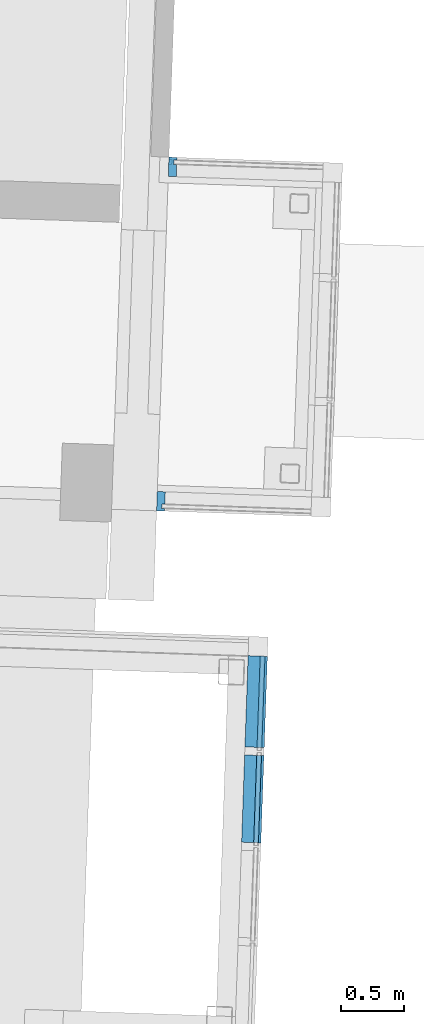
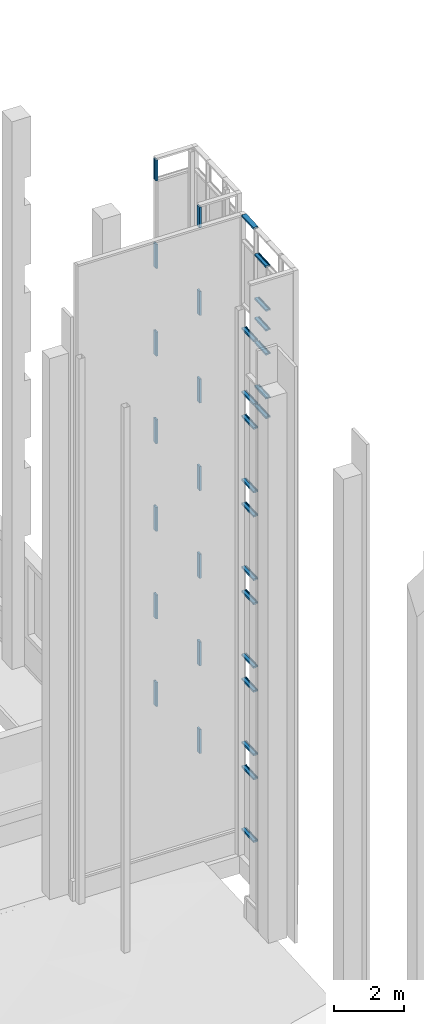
# One storey, part 17 of 44: 33 members, 3 elements without a shape of their own.
"""IFC2X3 building model written with IfcOpenShell, lengths in feet."""

from ifc_helpers import new_model, entity, si_unit, converted_unit, derived_unit, direction, frame, origin, place, context, subcontext, project, spatial, polyline, outline, extrude, material, type_object, element, aggregate, save


model = new_model("IFC2X3")

# Units and contexts
model_context = context("Model", 3, precision=0.0001, world=origin(), true_north=direction((0.999390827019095, 0.0348994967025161)))
body_context = subcontext(model_context, "Body", "Model", "MODEL_VIEW")
ifc_project = project(units=[converted_unit("LENGTHUNIT", "FOOT", entity("IfcRatioMeasure", 0.3048), si_unit("LENGTHUNIT", "METRE"), dimensions=[1, 0, 0, 0, 0, 0, 0]), converted_unit("AREAUNIT", "SQUARE FOOT", entity("IfcRatioMeasure", 0.09290304), si_unit("AREAUNIT", "SQUARE_METRE"), dimensions=[2, 0, 0, 0, 0, 0, 0]), converted_unit("VOLUMEUNIT", "CUBIC FOOT", entity("IfcRatioMeasure", 0.028316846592), si_unit("VOLUMEUNIT", "CUBIC_METRE"), dimensions=[3, 0, 0, 0, 0, 0, 0]), converted_unit("PLANEANGLEUNIT", "DEGREE", entity("IfcRatioMeasure", 0.0174532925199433), si_unit("PLANEANGLEUNIT", "RADIAN"), dimensions=[0, 0, 0, 0, 0, 0, 0]), si_unit("MASSUNIT", "GRAM", prefix="KILO"), si_unit("TIMEUNIT", "SECOND"), si_unit("FREQUENCYUNIT", "HERTZ"), si_unit("THERMODYNAMICTEMPERATUREUNIT", "DEGREE_CELSIUS"), derived_unit("THERMALTRANSMITTANCEUNIT", [(si_unit("MASSUNIT", "GRAM", prefix="KILO"), 1), (si_unit("THERMODYNAMICTEMPERATUREUNIT", "KELVIN"), -1), (si_unit("TIMEUNIT", "SECOND"), -3)]), derived_unit("VOLUMETRICFLOWRATEUNIT", [(si_unit("LENGTHUNIT", "METRE"), 3), (si_unit("TIMEUNIT", "SECOND"), -1)]), si_unit("ELECTRICCURRENTUNIT", "AMPERE"), si_unit("ELECTRICVOLTAGEUNIT", "VOLT"), si_unit("POWERUNIT", "WATT"), si_unit("FORCEUNIT", "NEWTON"), si_unit("ILLUMINANCEUNIT", "LUX"), si_unit("LUMINOUSFLUXUNIT", "LUMEN"), si_unit("LUMINOUSINTENSITYUNIT", "CANDELA"), derived_unit("USERDEFINED", [(si_unit("MASSUNIT", "GRAM", prefix="KILO"), -1), (si_unit("LENGTHUNIT", "METRE"), -2), (si_unit("TIMEUNIT", "SECOND"), 3), (si_unit("LUMINOUSFLUXUNIT", "LUMEN"), 1)]), derived_unit("LINEARVELOCITYUNIT", [(si_unit("LENGTHUNIT", "METRE"), 1), (si_unit("TIMEUNIT", "SECOND"), -1)]), si_unit("PRESSUREUNIT", "PASCAL"), derived_unit("USERDEFINED", [(si_unit("LENGTHUNIT", "METRE"), -2), (si_unit("MASSUNIT", "GRAM", prefix="KILO"), 1), (si_unit("TIMEUNIT", "SECOND"), -2)])], contexts=[model_context])

# Site, building, storey
site_placement = place(None, frame((892.518771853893, 322.38689265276, 0.00393700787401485), z_axis=(0.0, 0.0, 1.0), x_axis=(0.0348994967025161, 0.999390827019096, 0.0)))
site = spatial("IfcSite", under=ifc_project, at=site_placement, Name="Default", CompositionType="ELEMENT")
building_placement = place(site_placement, origin())
building = spatial("IfcBuilding", under=site, at=building_placement, CompositionType="ELEMENT")
storey_placement = place(building_placement, frame((0.0, 0.0, 544.75)))
storey = spatial("IfcBuildingStorey", under=building, at=storey_placement, Name="Exist Garage - Ground Level", CompositionType="ELEMENT", Elevation=544.75)

# Curtain wall, members
curtain_wall_type = type_object("IfcCurtainWallType", Name="Curtain Wall:(Existing) Curtainwall - Blank", PredefinedType="NOTDEFINED")
curtain_wall_1_placement = place(storey_placement, frame((0.0, 0.0, -544.75)))
curtain_wall_1 = element("IfcCurtainWall", 1, at=curtain_wall_1_placement, inside=storey, type_object=curtain_wall_type, Name="Curtain Wall:(Existing) Curtainwall - Blank", ObjectType="Curtain Wall:(Existing) Curtainwall - Blank")
ifc_material = material(Name="Metal - Aluminum")
member_1_placement = place(curtain_wall_1_placement, frame((0.0, 0.0, 544.75)))
member_1 = element("IfcMember", 2, at=member_1_placement, material=ifc_material, Name="Curtain Wall:(Existing) Curtainwall - Blank", ObjectType="Curtain Wall:(Existing) Curtainwall - Blank", context=body_context, shape_type="SweptSolid", body=[
    extrude(outline(polyline([(-0.0716145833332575, -0.312499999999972), (0.136718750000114, -0.312499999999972), (0.136718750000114, 0.187500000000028), (-0.0716145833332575, 0.187500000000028), (-0.0716145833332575, 0.125000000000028), (0.00651041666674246, 0.125000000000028), (0.00651041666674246, 0.0), (-0.0716145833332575, 0.0), (-0.0716145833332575, -0.312499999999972)])), frame((101.593963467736, 232.451453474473, 2.38671875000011), z_axis=(-1.0, 0.0, 0.0), x_axis=(0.0, 0.0, -1.0)), (0.0, 0.0, 1.0), 2.36458333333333),
])
member_2_placement = place(curtain_wall_1_placement, frame((0.0, 0.0, 544.75)))
member_2 = element("IfcMember", 3, at=member_2_placement, material=ifc_material, Name="Curtain Wall:(Existing) Curtainwall - Blank", ObjectType="Curtain Wall:(Existing) Curtainwall - Blank", context=body_context, shape_type="SweptSolid", body=[
    extrude(outline(polyline([(-0.13671875, -0.187500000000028), (0.0716145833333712, -0.187500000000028), (0.0716145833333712, -0.125000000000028), (-0.00651041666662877, -0.125000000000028), (-0.00651041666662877, 0.0), (0.0716145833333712, 0.0), (0.0716145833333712, 0.312499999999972), (-0.13671875, 0.312499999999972), (-0.13671875, -0.187500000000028)])), frame((99.2293801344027, 232.451453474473, 72.3216145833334), z_axis=(1.0, 0.0, 0.0), x_axis=(0.0, 0.0, -1.0)), (0.0, 0.0, 1.0), 2.36458333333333),
])
member_3_placement = place(curtain_wall_1_placement, frame((0.0, 0.0, 544.75)))
member_3 = element("IfcMember", 4, at=member_3_placement, material=ifc_material, Name="Curtain Wall:(Existing) Curtainwall - Blank", ObjectType="Curtain Wall:(Existing) Curtainwall - Blank", context=body_context, shape_type="SweptSolid", body=[
    extrude(outline(polyline([(-0.104166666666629, -0.166666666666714), (0.104166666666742, -0.166666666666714), (0.104166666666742, -0.104166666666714), (0.0260416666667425, -0.104166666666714), (0.0260416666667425, 0.020833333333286), (0.104166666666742, 0.020833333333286), (0.104166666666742, 0.333333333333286), (-0.104166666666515, 0.333333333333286), (-0.104166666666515, 0.020833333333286), (-0.0260416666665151, 0.020833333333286), (-0.0260416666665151, -0.104166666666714), (-0.104166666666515, -0.104166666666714), (-0.104166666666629, -0.166666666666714)])), frame((99.2293801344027, 232.43062014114, 9.50000000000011), z_axis=(1.0, 0.0, 0.0), x_axis=(0.0, 0.0, -1.0)), (0.0, 0.0, 1.0), 2.36458333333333),
])
member_4_placement = place(curtain_wall_1_placement, frame((0.0, 0.0, 544.75)))
member_4 = element("IfcMember", 5, at=member_4_placement, material=ifc_material, Name="Curtain Wall:(Existing) Curtainwall - Blank", ObjectType="Curtain Wall:(Existing) Curtainwall - Blank", context=body_context, shape_type="SweptSolid", body=[
    extrude(outline(polyline([(-0.104166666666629, -0.166666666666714), (0.104166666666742, -0.166666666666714), (0.104166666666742, -0.104166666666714), (0.0260416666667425, -0.104166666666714), (0.0260416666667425, 0.020833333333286), (0.104166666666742, 0.020833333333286), (0.104166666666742, 0.333333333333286), (-0.104166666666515, 0.333333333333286), (-0.104166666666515, 0.020833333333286), (-0.0260416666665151, 0.020833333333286), (-0.0260416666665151, -0.104166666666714), (-0.104166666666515, -0.104166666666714), (-0.104166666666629, -0.166666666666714)])), frame((99.2293801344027, 232.43062014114, 12.2500000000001), z_axis=(1.0, 0.0, 0.0), x_axis=(0.0, 0.0, -1.0)), (0.0, 0.0, 1.0), 2.36458333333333),
])
member_5_placement = place(curtain_wall_1_placement, frame((0.0, 0.0, 544.75)))
member_5 = element("IfcMember", 6, at=member_5_placement, material=ifc_material, Name="Curtain Wall:(Existing) Curtainwall - Blank", ObjectType="Curtain Wall:(Existing) Curtainwall - Blank", context=body_context, shape_type="SweptSolid", body=[
    extrude(outline(polyline([(-0.104166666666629, -0.166666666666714), (0.104166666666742, -0.166666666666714), (0.104166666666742, -0.104166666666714), (0.0260416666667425, -0.104166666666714), (0.0260416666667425, 0.020833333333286), (0.104166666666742, 0.020833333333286), (0.104166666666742, 0.333333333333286), (-0.104166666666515, 0.333333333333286), (-0.104166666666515, 0.020833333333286), (-0.0260416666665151, 0.020833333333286), (-0.0260416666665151, -0.104166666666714), (-0.104166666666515, -0.104166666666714), (-0.104166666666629, -0.166666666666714)])), frame((99.2293801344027, 232.43062014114, 19.5000000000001), z_axis=(1.0, 0.0, 0.0), x_axis=(0.0, 0.0, -1.0)), (0.0, 0.0, 1.0), 2.36458333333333),
])
member_6_placement = place(curtain_wall_1_placement, frame((0.0, 0.0, 544.75)))
member_6 = element("IfcMember", 7, at=member_6_placement, material=ifc_material, Name="Curtain Wall:(Existing) Curtainwall - Blank", ObjectType="Curtain Wall:(Existing) Curtainwall - Blank", context=body_context, shape_type="SweptSolid", body=[
    extrude(outline(polyline([(-0.104166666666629, -0.166666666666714), (0.104166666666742, -0.166666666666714), (0.104166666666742, -0.104166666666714), (0.0260416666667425, -0.104166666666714), (0.0260416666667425, 0.020833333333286), (0.104166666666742, 0.020833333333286), (0.104166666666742, 0.333333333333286), (-0.104166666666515, 0.333333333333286), (-0.104166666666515, 0.020833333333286), (-0.0260416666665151, 0.020833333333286), (-0.0260416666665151, -0.104166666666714), (-0.104166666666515, -0.104166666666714), (-0.104166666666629, -0.166666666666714)])), frame((99.2293801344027, 232.43062014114, 22.2500000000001), z_axis=(1.0, 0.0, 0.0), x_axis=(0.0, 0.0, -1.0)), (0.0, 0.0, 1.0), 2.36458333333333),
])
member_7_placement = place(curtain_wall_1_placement, frame((0.0, 0.0, 544.75)))
member_7 = element("IfcMember", 8, at=member_7_placement, material=ifc_material, Name="Curtain Wall:(Existing) Curtainwall - Blank", ObjectType="Curtain Wall:(Existing) Curtainwall - Blank", context=body_context, shape_type="SweptSolid", body=[
    extrude(outline(polyline([(-0.104166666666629, -0.166666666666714), (0.104166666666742, -0.166666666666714), (0.104166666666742, -0.104166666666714), (0.0260416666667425, -0.104166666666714), (0.0260416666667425, 0.020833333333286), (0.104166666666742, 0.020833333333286), (0.104166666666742, 0.333333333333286), (-0.104166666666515, 0.333333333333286), (-0.104166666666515, 0.020833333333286), (-0.0260416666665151, 0.020833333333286), (-0.0260416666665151, -0.104166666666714), (-0.104166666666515, -0.104166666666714), (-0.104166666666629, -0.166666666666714)])), frame((99.2293801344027, 232.43062014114, 29.5000000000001), z_axis=(1.0, 0.0, 0.0), x_axis=(0.0, 0.0, -1.0)), (0.0, 0.0, 1.0), 2.36458333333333),
])
member_8_placement = place(curtain_wall_1_placement, frame((0.0, 0.0, 544.75)))
member_8 = element("IfcMember", 9, at=member_8_placement, material=ifc_material, Name="Curtain Wall:(Existing) Curtainwall - Blank", ObjectType="Curtain Wall:(Existing) Curtainwall - Blank", context=body_context, shape_type="SweptSolid", body=[
    extrude(outline(polyline([(-0.104166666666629, -0.166666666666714), (0.104166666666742, -0.166666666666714), (0.104166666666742, -0.104166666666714), (0.0260416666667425, -0.104166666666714), (0.0260416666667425, 0.020833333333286), (0.104166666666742, 0.020833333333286), (0.104166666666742, 0.333333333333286), (-0.104166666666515, 0.333333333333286), (-0.104166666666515, 0.020833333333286), (-0.0260416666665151, 0.020833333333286), (-0.0260416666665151, -0.104166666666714), (-0.104166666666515, -0.104166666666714), (-0.104166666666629, -0.166666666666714)])), frame((99.2293801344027, 232.43062014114, 32.2500000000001), z_axis=(1.0, 0.0, 0.0), x_axis=(0.0, 0.0, -1.0)), (0.0, 0.0, 1.0), 2.36458333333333),
])
member_9_placement = place(curtain_wall_1_placement, frame((0.0, 0.0, 544.75)))
member_9 = element("IfcMember", 10, at=member_9_placement, material=ifc_material, Name="Curtain Wall:(Existing) Curtainwall - Blank", ObjectType="Curtain Wall:(Existing) Curtainwall - Blank", context=body_context, shape_type="SweptSolid", body=[
    extrude(outline(polyline([(-0.104166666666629, -0.166666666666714), (0.104166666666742, -0.166666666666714), (0.104166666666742, -0.104166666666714), (0.0260416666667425, -0.104166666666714), (0.0260416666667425, 0.020833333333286), (0.104166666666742, 0.020833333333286), (0.104166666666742, 0.333333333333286), (-0.104166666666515, 0.333333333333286), (-0.104166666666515, 0.020833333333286), (-0.0260416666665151, 0.020833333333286), (-0.0260416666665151, -0.104166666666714), (-0.104166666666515, -0.104166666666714), (-0.104166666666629, -0.166666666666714)])), frame((99.2293801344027, 232.43062014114, 39.5000000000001), z_axis=(1.0, 0.0, 0.0), x_axis=(0.0, 0.0, -1.0)), (0.0, 0.0, 1.0), 2.36458333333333),
])
member_10_placement = place(curtain_wall_1_placement, frame((0.0, 0.0, 544.75)))
member_10 = element("IfcMember", 11, at=member_10_placement, material=ifc_material, Name="Curtain Wall:(Existing) Curtainwall - Blank", ObjectType="Curtain Wall:(Existing) Curtainwall - Blank", context=body_context, shape_type="SweptSolid", body=[
    extrude(outline(polyline([(-0.104166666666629, -0.166666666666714), (0.104166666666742, -0.166666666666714), (0.104166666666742, -0.104166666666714), (0.0260416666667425, -0.104166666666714), (0.0260416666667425, 0.020833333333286), (0.104166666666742, 0.020833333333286), (0.104166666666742, 0.333333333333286), (-0.104166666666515, 0.333333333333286), (-0.104166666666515, 0.020833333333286), (-0.0260416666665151, 0.020833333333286), (-0.0260416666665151, -0.104166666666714), (-0.104166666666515, -0.104166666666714), (-0.104166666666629, -0.166666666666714)])), frame((99.2293801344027, 232.43062014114, 42.2500000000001), z_axis=(1.0, 0.0, 0.0), x_axis=(0.0, 0.0, -1.0)), (0.0, 0.0, 1.0), 2.36458333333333),
])
member_11_placement = place(curtain_wall_1_placement, frame((0.0, 0.0, 544.75)))
member_11 = element("IfcMember", 12, at=member_11_placement, material=ifc_material, Name="Curtain Wall:(Existing) Curtainwall - Blank", ObjectType="Curtain Wall:(Existing) Curtainwall - Blank", context=body_context, shape_type="SweptSolid", body=[
    extrude(outline(polyline([(-0.104166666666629, -0.166666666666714), (0.104166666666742, -0.166666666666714), (0.104166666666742, -0.104166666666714), (0.0260416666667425, -0.104166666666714), (0.0260416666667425, 0.020833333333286), (0.104166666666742, 0.020833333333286), (0.104166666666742, 0.333333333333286), (-0.104166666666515, 0.333333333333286), (-0.104166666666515, 0.020833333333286), (-0.0260416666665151, 0.020833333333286), (-0.0260416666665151, -0.104166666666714), (-0.104166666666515, -0.104166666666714), (-0.104166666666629, -0.166666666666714)])), frame((99.2293801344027, 232.43062014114, 49.5000000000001), z_axis=(1.0, 0.0, 0.0), x_axis=(0.0, 0.0, -1.0)), (0.0, 0.0, 1.0), 2.36458333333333),
])
member_12_placement = place(curtain_wall_1_placement, frame((0.0, 0.0, 544.75)))
member_12 = element("IfcMember", 13, at=member_12_placement, material=ifc_material, Name="Curtain Wall:(Existing) Curtainwall - Blank", ObjectType="Curtain Wall:(Existing) Curtainwall - Blank", context=body_context, shape_type="SweptSolid", body=[
    extrude(outline(polyline([(-0.104166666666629, -0.166666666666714), (0.104166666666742, -0.166666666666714), (0.104166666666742, -0.104166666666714), (0.0260416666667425, -0.104166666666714), (0.0260416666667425, 0.020833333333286), (0.104166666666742, 0.020833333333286), (0.104166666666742, 0.333333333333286), (-0.104166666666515, 0.333333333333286), (-0.104166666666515, 0.020833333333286), (-0.0260416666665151, 0.020833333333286), (-0.0260416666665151, -0.104166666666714), (-0.104166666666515, -0.104166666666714), (-0.104166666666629, -0.166666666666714)])), frame((99.2293801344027, 232.43062014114, 52.2500000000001), z_axis=(1.0, 0.0, 0.0), x_axis=(0.0, 0.0, -1.0)), (0.0, 0.0, 1.0), 2.36458333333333),
])
member_13_placement = place(curtain_wall_1_placement, frame((0.0, 0.0, 544.75)))
member_13 = element("IfcMember", 14, at=member_13_placement, material=ifc_material, Name="Curtain Wall:(Existing) Curtainwall - Blank", ObjectType="Curtain Wall:(Existing) Curtainwall - Blank", context=body_context, shape_type="SweptSolid", body=[
    extrude(outline(polyline([(-0.104166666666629, -0.166666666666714), (0.104166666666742, -0.166666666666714), (0.104166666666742, -0.104166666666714), (0.0260416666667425, -0.104166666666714), (0.0260416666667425, 0.020833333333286), (0.104166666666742, 0.020833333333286), (0.104166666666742, 0.333333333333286), (-0.104166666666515, 0.333333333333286), (-0.104166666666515, 0.020833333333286), (-0.0260416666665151, 0.020833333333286), (-0.0260416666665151, -0.104166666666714), (-0.104166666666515, -0.104166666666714), (-0.104166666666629, -0.166666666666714)])), frame((96.7606301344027, 232.43062014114, 52.2500000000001), z_axis=(1.0, 0.0, 0.0), x_axis=(0.0, 0.0, -1.0)), (0.0, 0.0, 1.0), 2.26041666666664),
])
member_14_placement = place(curtain_wall_1_placement, frame((0.0, 0.0, 544.75)))
member_14 = element("IfcMember", 15, at=member_14_placement, material=ifc_material, Name="Curtain Wall:(Existing) Curtainwall - Blank", ObjectType="Curtain Wall:(Existing) Curtainwall - Blank", context=body_context, shape_type="SweptSolid", body=[
    extrude(outline(polyline([(-0.104166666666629, -0.166666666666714), (0.104166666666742, -0.166666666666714), (0.104166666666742, -0.104166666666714), (0.0260416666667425, -0.104166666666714), (0.0260416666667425, 0.020833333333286), (0.104166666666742, 0.020833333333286), (0.104166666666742, 0.333333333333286), (-0.104166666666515, 0.333333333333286), (-0.104166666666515, 0.020833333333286), (-0.0260416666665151, 0.020833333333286), (-0.0260416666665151, -0.104166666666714), (-0.104166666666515, -0.104166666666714), (-0.104166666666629, -0.166666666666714)])), frame((96.7606301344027, 232.43062014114, 54.5000000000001), z_axis=(1.0, 0.0, 0.0), x_axis=(0.0, 0.0, -1.0)), (0.0, 0.0, 1.0), 2.26041666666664),
])
member_15_placement = place(curtain_wall_1_placement, frame((0.0, 0.0, 544.75)))
member_15 = element("IfcMember", 16, at=member_15_placement, material=ifc_material, Name="Curtain Wall:(Existing) Curtainwall - Blank", ObjectType="Curtain Wall:(Existing) Curtainwall - Blank", context=body_context, shape_type="SweptSolid", body=[
    extrude(outline(polyline([(-0.104166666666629, -0.166666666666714), (0.104166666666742, -0.166666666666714), (0.104166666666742, -0.104166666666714), (0.0260416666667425, -0.104166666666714), (0.0260416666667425, 0.020833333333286), (0.104166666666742, 0.020833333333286), (0.104166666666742, 0.333333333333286), (-0.104166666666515, 0.333333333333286), (-0.104166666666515, 0.020833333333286), (-0.0260416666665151, 0.020833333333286), (-0.0260416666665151, -0.104166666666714), (-0.104166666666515, -0.104166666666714), (-0.104166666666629, -0.166666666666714)])), frame((99.2293801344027, 232.43062014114, 59.5000000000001), z_axis=(1.0, 0.0, 0.0), x_axis=(0.0, 0.0, -1.0)), (0.0, 0.0, 1.0), 2.36458333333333),
])
member_16_placement = place(curtain_wall_1_placement, frame((0.0, 0.0, 544.75)))
member_16 = element("IfcMember", 17, at=member_16_placement, material=ifc_material, Name="Curtain Wall:(Existing) Curtainwall - Blank", ObjectType="Curtain Wall:(Existing) Curtainwall - Blank", context=body_context, shape_type="SweptSolid", body=[
    extrude(outline(polyline([(-0.104166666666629, -0.166666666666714), (0.104166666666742, -0.166666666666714), (0.104166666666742, -0.104166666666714), (0.0260416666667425, -0.104166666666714), (0.0260416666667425, 0.020833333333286), (0.104166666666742, 0.020833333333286), (0.104166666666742, 0.333333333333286), (-0.104166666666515, 0.333333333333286), (-0.104166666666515, 0.020833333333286), (-0.0260416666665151, 0.020833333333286), (-0.0260416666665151, -0.104166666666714), (-0.104166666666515, -0.104166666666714), (-0.104166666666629, -0.166666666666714)])), frame((96.7606301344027, 232.43062014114, 59.5000000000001), z_axis=(1.0, 0.0, 0.0), x_axis=(0.0, 0.0, -1.0)), (0.0, 0.0, 1.0), 2.26041666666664),
])
member_17_placement = place(curtain_wall_1_placement, frame((0.0, 0.0, 544.75)))
member_17 = element("IfcMember", 18, at=member_17_placement, material=ifc_material, Name="Curtain Wall:(Existing) Curtainwall - Blank", ObjectType="Curtain Wall:(Existing) Curtainwall - Blank", context=body_context, shape_type="SweptSolid", body=[
    extrude(outline(polyline([(-0.104166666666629, -0.166666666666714), (0.104166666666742, -0.166666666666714), (0.104166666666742, -0.104166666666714), (0.0260416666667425, -0.104166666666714), (0.0260416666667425, 0.020833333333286), (0.104166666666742, 0.020833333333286), (0.104166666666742, 0.333333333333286), (-0.104166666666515, 0.333333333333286), (-0.104166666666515, 0.020833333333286), (-0.0260416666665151, 0.020833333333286), (-0.0260416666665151, -0.104166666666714), (-0.104166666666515, -0.104166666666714), (-0.104166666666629, -0.166666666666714)])), frame((96.7606301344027, 232.43062014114, 62.2500000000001), z_axis=(1.0, 0.0, 0.0), x_axis=(0.0, 0.0, -1.0)), (0.0, 0.0, 1.0), 2.26041666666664),
])
member_18_placement = place(curtain_wall_1_placement, frame((0.0, 0.0, 544.75)))
member_18 = element("IfcMember", 19, at=member_18_placement, material=ifc_material, Name="Curtain Wall:(Existing) Curtainwall - Blank", ObjectType="Curtain Wall:(Existing) Curtainwall - Blank", context=body_context, shape_type="SweptSolid", body=[
    extrude(outline(polyline([(-0.104166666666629, -0.166666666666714), (0.104166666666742, -0.166666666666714), (0.104166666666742, -0.104166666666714), (0.0260416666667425, -0.104166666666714), (0.0260416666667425, 0.020833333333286), (0.104166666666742, 0.020833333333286), (0.104166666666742, 0.333333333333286), (-0.104166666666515, 0.333333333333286), (-0.104166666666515, 0.020833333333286), (-0.0260416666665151, 0.020833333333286), (-0.0260416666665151, -0.104166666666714), (-0.104166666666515, -0.104166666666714), (-0.104166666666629, -0.166666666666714)])), frame((96.7606301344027, 232.43062014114, 64.5000000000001), z_axis=(1.0, 0.0, 0.0), x_axis=(0.0, 0.0, -1.0)), (0.0, 0.0, 1.0), 2.26041666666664),
])
member_19_placement = place(curtain_wall_1_placement, frame((0.0, 0.0, 544.75)))
member_19 = element("IfcMember", 20, at=member_19_placement, material=ifc_material, Name="Curtain Wall:(Existing) Curtainwall - Blank", ObjectType="Curtain Wall:(Existing) Curtainwall - Blank", context=body_context, shape_type="SweptSolid", body=[
    extrude(outline(polyline([(-0.104166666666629, -0.166666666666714), (0.104166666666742, -0.166666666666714), (0.104166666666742, -0.104166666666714), (0.0260416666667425, -0.104166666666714), (0.0260416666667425, 0.020833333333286), (0.104166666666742, 0.020833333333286), (0.104166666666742, 0.333333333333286), (-0.104166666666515, 0.333333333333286), (-0.104166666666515, 0.020833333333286), (-0.0260416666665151, 0.020833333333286), (-0.0260416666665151, -0.104166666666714), (-0.104166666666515, -0.104166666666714), (-0.104166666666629, -0.166666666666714)])), frame((96.7606301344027, 232.43062014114, 69.5000000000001), z_axis=(1.0, 0.0, 0.0), x_axis=(0.0, 0.0, -1.0)), (0.0, 0.0, 1.0), 2.26041666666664),
])
aggregate(curtain_wall_1, [member_1, member_2, member_3, member_4, member_5, member_6, member_7, member_8, member_9, member_10, member_11, member_12, member_13, member_14, member_15, member_16, member_17, member_18, member_19])

curtain_wall_2_placement = place(storey_placement, frame((0.0, 0.0, -544.75)))
curtain_wall_2 = element("IfcCurtainWall", 21, at=curtain_wall_2_placement, inside=storey, type_object=curtain_wall_type, Name="Curtain Wall:(Existing) Curtainwall - Blank", ObjectType="Curtain Wall:(Existing) Curtainwall - Blank")
member_20_placement = place(curtain_wall_2_placement, frame((0.0, 0.0, 544.75)))
member_20 = element("IfcMember", 22, at=member_20_placement, material=ifc_material, Name="Curtain Wall:(Existing) Curtainwall - Blank", ObjectType="Curtain Wall:(Existing) Curtainwall - Blank", context=body_context, shape_type="SweptSolid", body=[
    extrude(outline(polyline([(0.125, -0.0716145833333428), (0.1875, -0.0716145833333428), (0.1875, 0.13671875), (-0.3125, 0.13671875), (-0.3125, -0.0716145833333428), (0.0, -0.0716145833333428), (0.0, 0.00651041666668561), (0.125, 0.00651041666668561), (0.125, -0.0716145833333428)])), frame((105.448126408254, 235.127234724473, 71.875), z_axis=(0.0, 0.0, -1.0), x_axis=(-1.0, 0.0, 0.0)), (0.0, 0.0, 1.0), 2.375),
])
member_21_placement = place(curtain_wall_2_placement, frame((0.0, 0.0, 544.75)))
member_21 = element("IfcMember", 23, at=member_21_placement, material=ifc_material, Name="Curtain Wall:(Existing) Curtainwall - Blank", ObjectType="Curtain Wall:(Existing) Curtainwall - Blank", context=body_context, shape_type="SweptSolid", body=[
    extrude(outline(polyline([(0.125, -0.0716145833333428), (0.1875, -0.0716145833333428), (0.1875, 0.13671875), (-0.3125, 0.13671875), (-0.3125, -0.0716145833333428), (0.0, -0.0716145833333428), (0.0, 0.00651041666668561), (0.125, 0.00651041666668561), (0.125, -0.0716145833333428)])), frame((105.448126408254, 235.127234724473, 12.25), z_axis=(0.0, 0.0, -1.0), x_axis=(-1.0, 0.0, 0.0)), (0.0, 0.0, 1.0), 2.75),
])
member_22_placement = place(curtain_wall_2_placement, frame((0.0, 0.0, 544.75)))
member_22 = element("IfcMember", 24, at=member_22_placement, material=ifc_material, Name="Curtain Wall:(Existing) Curtainwall - Blank", ObjectType="Curtain Wall:(Existing) Curtainwall - Blank", context=body_context, shape_type="SweptSolid", body=[
    extrude(outline(polyline([(0.125, -0.0716145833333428), (0.1875, -0.0716145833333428), (0.1875, 0.13671875), (-0.3125, 0.13671875), (-0.3125, -0.0716145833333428), (0.0, -0.0716145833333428), (0.0, 0.00651041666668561), (0.125, 0.00651041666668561), (0.125, -0.0716145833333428)])), frame((105.448126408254, 235.127234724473, 22.25), z_axis=(0.0, 0.0, -1.0), x_axis=(-1.0, 0.0, 0.0)), (0.0, 0.0, 1.0), 2.75),
])
member_23_placement = place(curtain_wall_2_placement, frame((0.0, 0.0, 544.75)))
member_23 = element("IfcMember", 25, at=member_23_placement, material=ifc_material, Name="Curtain Wall:(Existing) Curtainwall - Blank", ObjectType="Curtain Wall:(Existing) Curtainwall - Blank", context=body_context, shape_type="SweptSolid", body=[
    extrude(outline(polyline([(0.125, -0.0716145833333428), (0.1875, -0.0716145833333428), (0.1875, 0.13671875), (-0.3125, 0.13671875), (-0.3125, -0.0716145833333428), (0.0, -0.0716145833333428), (0.0, 0.00651041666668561), (0.125, 0.00651041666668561), (0.125, -0.0716145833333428)])), frame((105.448126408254, 235.127234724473, 32.25), z_axis=(0.0, 0.0, -1.0), x_axis=(-1.0, 0.0, 0.0)), (0.0, 0.0, 1.0), 2.75),
])
member_24_placement = place(curtain_wall_2_placement, frame((0.0, 0.0, 544.75)))
member_24 = element("IfcMember", 26, at=member_24_placement, material=ifc_material, Name="Curtain Wall:(Existing) Curtainwall - Blank", ObjectType="Curtain Wall:(Existing) Curtainwall - Blank", context=body_context, shape_type="SweptSolid", body=[
    extrude(outline(polyline([(0.125, -0.0716145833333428), (0.1875, -0.0716145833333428), (0.1875, 0.13671875), (-0.3125, 0.13671875), (-0.3125, -0.0716145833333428), (0.0, -0.0716145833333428), (0.0, 0.00651041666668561), (0.125, 0.00651041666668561), (0.125, -0.0716145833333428)])), frame((105.448126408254, 235.127234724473, 42.25), z_axis=(0.0, 0.0, -1.0), x_axis=(-1.0, 0.0, 0.0)), (0.0, 0.0, 1.0), 2.75),
])
member_25_placement = place(curtain_wall_2_placement, frame((0.0, 0.0, 544.75)))
member_25 = element("IfcMember", 27, at=member_25_placement, material=ifc_material, Name="Curtain Wall:(Existing) Curtainwall - Blank", ObjectType="Curtain Wall:(Existing) Curtainwall - Blank", context=body_context, shape_type="SweptSolid", body=[
    extrude(outline(polyline([(0.125, -0.0716145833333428), (0.1875, -0.0716145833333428), (0.1875, 0.13671875), (-0.3125, 0.13671875), (-0.3125, -0.0716145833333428), (0.0, -0.0716145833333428), (0.0, 0.00651041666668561), (0.125, 0.00651041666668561), (0.125, -0.0716145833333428)])), frame((105.448126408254, 235.127234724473, 52.25), z_axis=(0.0, 0.0, -1.0), x_axis=(-1.0, 0.0, 0.0)), (0.0, 0.0, 1.0), 2.75),
])
member_26_placement = place(curtain_wall_2_placement, frame((0.0, 0.0, 544.75)))
member_26 = element("IfcMember", 28, at=member_26_placement, material=ifc_material, Name="Curtain Wall:(Existing) Curtainwall - Blank", ObjectType="Curtain Wall:(Existing) Curtainwall - Blank", context=body_context, shape_type="SweptSolid", body=[
    extrude(outline(polyline([(0.125, -0.0716145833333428), (0.1875, -0.0716145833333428), (0.1875, 0.13671875), (-0.3125, 0.13671875), (-0.3125, -0.0716145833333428), (0.0, -0.0716145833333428), (0.0, 0.00651041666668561), (0.125, 0.00651041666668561), (0.125, -0.0716145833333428)])), frame((105.448126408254, 235.127234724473, 62.25), z_axis=(0.0, 0.0, -1.0), x_axis=(-1.0, 0.0, 0.0)), (0.0, 0.0, 1.0), 2.75),
])
aggregate(curtain_wall_2, [member_20, member_21, member_22, member_23, member_24, member_25, member_26])

curtain_wall_3_placement = place(storey_placement, frame((0.0, 0.0, -544.75)))
curtain_wall_3 = element("IfcCurtainWall", 29, at=curtain_wall_3_placement, inside=storey, type_object=curtain_wall_type, Name="Curtain Wall:(Existing) Curtainwall - Blank", ObjectType="Curtain Wall:(Existing) Curtainwall - Blank")
member_27_placement = place(curtain_wall_3_placement, frame((0.0, 0.0, 544.75)))
member_27 = element("IfcMember", 30, at=member_27_placement, material=ifc_material, Name="Curtain Wall:(Existing) Curtainwall - Blank", ObjectType="Curtain Wall:(Existing) Curtainwall - Blank", context=body_context, shape_type="SweptSolid", body=[
    extrude(outline(polyline([(-0.1875, -0.13671875), (0.3125, -0.13671875), (0.3125, 0.0716145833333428), (0.0, 0.0716145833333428), (0.0, -0.00651041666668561), (-0.125, -0.00651041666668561), (-0.125, 0.0716145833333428), (-0.1875, 0.0716145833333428), (-0.1875, -0.13671875)])), frame((114.239796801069, 235.127234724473, 9.5), z_axis=(0.0, 0.0, 1.0), x_axis=(-1.0, 0.0, 0.0)), (0.0, 0.0, 1.0), 2.75),
])
member_28_placement = place(curtain_wall_3_placement, frame((0.0, 0.0, 544.75)))
member_28 = element("IfcMember", 31, at=member_28_placement, material=ifc_material, Name="Curtain Wall:(Existing) Curtainwall - Blank", ObjectType="Curtain Wall:(Existing) Curtainwall - Blank", context=body_context, shape_type="SweptSolid", body=[
    extrude(outline(polyline([(-0.1875, -0.13671875), (0.3125, -0.13671875), (0.3125, 0.0716145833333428), (0.0, 0.0716145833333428), (0.0, -0.00651041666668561), (-0.125, -0.00651041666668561), (-0.125, 0.0716145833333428), (-0.1875, 0.0716145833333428), (-0.1875, -0.13671875)])), frame((114.239796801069, 235.127234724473, 19.5), z_axis=(0.0, 0.0, 1.0), x_axis=(-1.0, 0.0, 0.0)), (0.0, 0.0, 1.0), 2.75),
])
member_29_placement = place(curtain_wall_3_placement, frame((0.0, 0.0, 544.75)))
member_29 = element("IfcMember", 32, at=member_29_placement, material=ifc_material, Name="Curtain Wall:(Existing) Curtainwall - Blank", ObjectType="Curtain Wall:(Existing) Curtainwall - Blank", context=body_context, shape_type="SweptSolid", body=[
    extrude(outline(polyline([(-0.1875, -0.13671875), (0.3125, -0.13671875), (0.3125, 0.0716145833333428), (0.0, 0.0716145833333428), (0.0, -0.00651041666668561), (-0.125, -0.00651041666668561), (-0.125, 0.0716145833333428), (-0.1875, 0.0716145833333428), (-0.1875, -0.13671875)])), frame((114.239796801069, 235.127234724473, 29.5), z_axis=(0.0, 0.0, 1.0), x_axis=(-1.0, 0.0, 0.0)), (0.0, 0.0, 1.0), 2.75),
])
member_30_placement = place(curtain_wall_3_placement, frame((0.0, 0.0, 544.75)))
member_30 = element("IfcMember", 33, at=member_30_placement, material=ifc_material, Name="Curtain Wall:(Existing) Curtainwall - Blank", ObjectType="Curtain Wall:(Existing) Curtainwall - Blank", context=body_context, shape_type="SweptSolid", body=[
    extrude(outline(polyline([(-0.1875, -0.13671875), (0.3125, -0.13671875), (0.3125, 0.0716145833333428), (0.0, 0.0716145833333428), (0.0, -0.00651041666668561), (-0.125, -0.00651041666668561), (-0.125, 0.0716145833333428), (-0.1875, 0.0716145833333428), (-0.1875, -0.13671875)])), frame((114.239796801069, 235.127234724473, 39.5), z_axis=(0.0, 0.0, 1.0), x_axis=(-1.0, 0.0, 0.0)), (0.0, 0.0, 1.0), 2.75),
])
member_31_placement = place(curtain_wall_3_placement, frame((0.0, 0.0, 544.75)))
member_31 = element("IfcMember", 34, at=member_31_placement, material=ifc_material, Name="Curtain Wall:(Existing) Curtainwall - Blank", ObjectType="Curtain Wall:(Existing) Curtainwall - Blank", context=body_context, shape_type="SweptSolid", body=[
    extrude(outline(polyline([(-0.1875, -0.13671875), (0.3125, -0.13671875), (0.3125, 0.0716145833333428), (0.0, 0.0716145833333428), (0.0, -0.00651041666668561), (-0.125, -0.00651041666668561), (-0.125, 0.0716145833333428), (-0.1875, 0.0716145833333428), (-0.1875, -0.13671875)])), frame((114.239796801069, 235.127234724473, 49.5), z_axis=(0.0, 0.0, 1.0), x_axis=(-1.0, 0.0, 0.0)), (0.0, 0.0, 1.0), 2.75),
])
member_32_placement = place(curtain_wall_3_placement, frame((0.0, 0.0, 544.75)))
member_32 = element("IfcMember", 35, at=member_32_placement, material=ifc_material, Name="Curtain Wall:(Existing) Curtainwall - Blank", ObjectType="Curtain Wall:(Existing) Curtainwall - Blank", context=body_context, shape_type="SweptSolid", body=[
    extrude(outline(polyline([(-0.1875, -0.13671875), (0.3125, -0.13671875), (0.3125, 0.0716145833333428), (0.0, 0.0716145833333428), (0.0, -0.00651041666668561), (-0.125, -0.00651041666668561), (-0.125, 0.0716145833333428), (-0.1875, 0.0716145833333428), (-0.1875, -0.13671875)])), frame((114.239796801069, 235.127234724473, 59.5), z_axis=(0.0, 0.0, 1.0), x_axis=(-1.0, 0.0, 0.0)), (0.0, 0.0, 1.0), 2.75),
])
member_33_placement = place(curtain_wall_3_placement, frame((0.0, 0.0, 544.75)))
member_33 = element("IfcMember", 36, at=member_33_placement, material=ifc_material, Name="Curtain Wall:(Existing) Curtainwall - Blank", ObjectType="Curtain Wall:(Existing) Curtainwall - Blank", context=body_context, shape_type="SweptSolid", body=[
    extrude(outline(polyline([(0.020833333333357, -0.104166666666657), (0.333333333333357, -0.104166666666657), (0.333333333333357, 0.104166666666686), (0.020833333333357, 0.104166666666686), (0.020833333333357, 0.0260416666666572), (-0.104166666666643, 0.0260416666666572), (-0.104166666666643, 0.104166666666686), (-0.166666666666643, 0.104166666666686), (-0.166666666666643, -0.104166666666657), (-0.104166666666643, -0.104166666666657), (-0.104166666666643, -0.0260416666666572), (0.020833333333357, -0.0260416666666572), (0.020833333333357, -0.104166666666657)])), frame((114.260630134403, 235.159786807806, 69.5), z_axis=(0.0, 0.0, 1.0), x_axis=(-1.0, 0.0, 0.0)), (0.0, 0.0, 1.0), 2.375),
])
aggregate(curtain_wall_3, [member_27, member_28, member_29, member_30, member_31, member_32, member_33])

save(model, "model.ifc")
